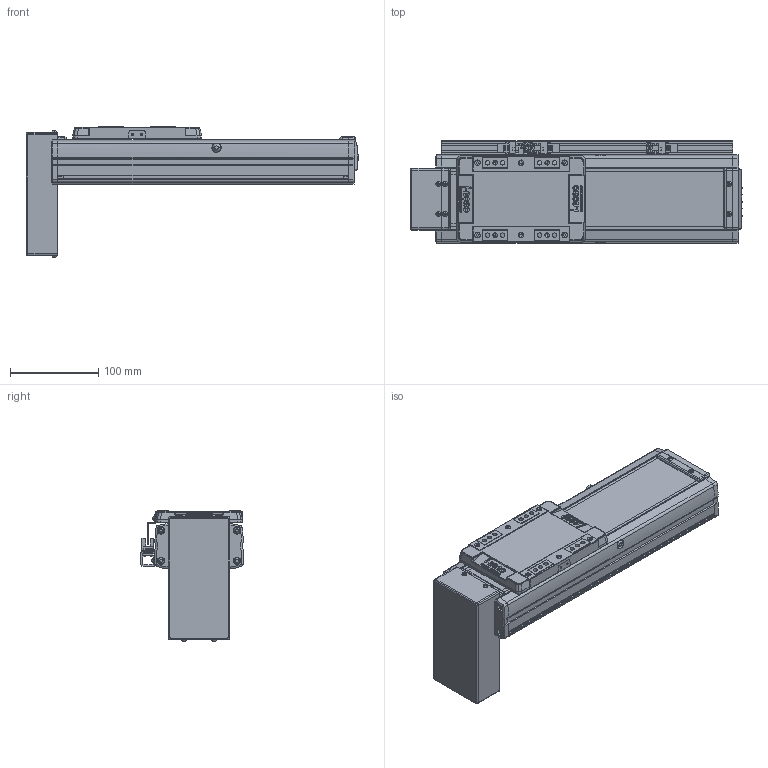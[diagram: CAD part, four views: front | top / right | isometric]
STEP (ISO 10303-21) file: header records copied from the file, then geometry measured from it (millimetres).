
FILE_DESCRIPTION(('STEP AP214'),'1');
FILE_NAME('Z:/Web/3D/SAN100/SAN100 양산용 (STEP)/SAN100ㅁㅁ-150PB+3SL.stp','2013-04-24T08:02:51',(' '),(' '),'Spatial InterOp 3D',' ',' ');
FILE_SCHEMA(('automotive_design'));
Length unit declared in the file: millimetre
Products named in the file (53): BTCV-SAN100; M3.0 x 6.0; 스크루 : Round - M4.0 x 10.0; FRCV-SAN100; SUS COVER; SFX-SAN100; RRCV-SAN100; 스크루 : Round - M3.0 x 6.0; FRBL-SAN100; SLBL-SAN100; SLCV-SAN100; 스크루 : Countersunk - M3.0 x 6.0; BASE; 스크루 : Round - M5.0 x 6.0; SGD-SAN100; SRL-16x17-380L; EE-SX674; SBK-SX674-352
Bounding box: 376.5 x 116 x 148.36 mm (x, y, z)
Volume: 1436658 mm3; surface area: 376946.7 mm2
Topology: 53 solids, 54 shells, 2417 faces, 6268 edges, 4065 vertices
Faces by surface type: plane 1334, cylinder 779, cone 194, sphere 68, torus 30, bspline 12
Entity records: 94794 total; most frequent: CARTESIAN_POINT 13717, DIRECTION 13253, ORIENTED_EDGE 12396, EDGE_CURVE 6198, AXIS2_PLACEMENT_3D 4670, VERTEX_POINT 4065, LINE 3913, VECTOR 3913
